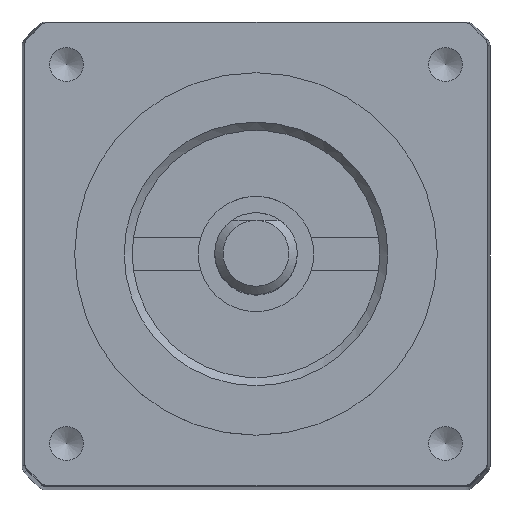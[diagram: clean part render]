
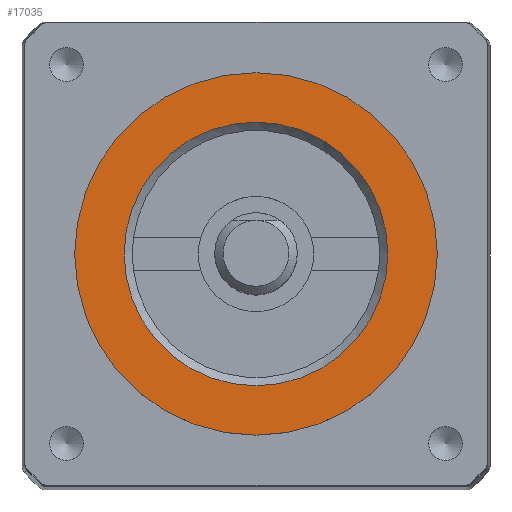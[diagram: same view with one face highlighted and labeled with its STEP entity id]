
A CAD part, top view. The second image highlights one B-rep face of the part: STEP entity #17035.
In plain terms, the highlighted planar face has unit normal (0, 0, 1).
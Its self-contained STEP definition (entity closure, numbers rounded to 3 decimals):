
#1520 = DIRECTION ( 'NONE',  ( 1., 0., 0. ) ) ;
#5336 = ORIENTED_EDGE ( 'NONE', *, *, #62356, .T. ) ;
#5469 = VERTEX_POINT ( 'NONE', #50461 ) ;
#6408 = CARTESIAN_POINT ( 'NONE',  ( 0., 0., 53.3 ) ) ;
#6967 = EDGE_CURVE ( 'NONE', #5469, #5469, #50838, .T. ) ;
#13360 = AXIS2_PLACEMENT_3D ( 'NONE', #18439, #39319, #54256 ) ;
#17035 = ADVANCED_FACE ( 'NONE', ( #18194, #51795 ), #17233, .T. ) ;
#17097 = AXIS2_PLACEMENT_3D ( 'NONE', #6408, #21748, #1520 ) ;
#17233 = PLANE ( 'NONE',  #32900 ) ;
#18194 = FACE_BOUND ( 'NONE', #27292, .T. ) ;
#18439 = CARTESIAN_POINT ( 'NONE',  ( 0., 0., 53.3 ) ) ;
#21748 = DIRECTION ( 'NONE',  ( 0., 0., 1. ) ) ;
#27292 = EDGE_LOOP ( 'NONE', ( #47646 ) ) ;
#27654 = DIRECTION ( 'NONE',  ( 0., 0., 1. ) ) ;
#27999 = CARTESIAN_POINT ( 'NONE',  ( 11., 0., 53.3 ) ) ;
#32246 = CARTESIAN_POINT ( 'NONE',  ( 0., 0., 53.3 ) ) ;
#32900 = AXIS2_PLACEMENT_3D ( 'NONE', #32246, #27654, #52098 ) ;
#39319 = DIRECTION ( 'NONE',  ( 0., 0., 1. ) ) ;
#46849 = EDGE_LOOP ( 'NONE', ( #5336 ) ) ;
#47646 = ORIENTED_EDGE ( 'NONE', *, *, #6967, .F. ) ;
#50461 = CARTESIAN_POINT ( 'NONE',  ( 8., 0., 53.3 ) ) ;
#50838 = CIRCLE ( 'NONE', #13360, 8. ) ;
#51795 = FACE_OUTER_BOUND ( 'NONE', #46849, .T. ) ;
#52098 = DIRECTION ( 'NONE',  ( 1., 0., 0. ) ) ;
#52458 = VERTEX_POINT ( 'NONE', #27999 ) ;
#52468 = CIRCLE ( 'NONE', #17097, 11. ) ;
#54256 = DIRECTION ( 'NONE',  ( 1., 0., 0. ) ) ;
#62356 = EDGE_CURVE ( 'NONE', #52458, #52458, #52468, .T. ) ;
